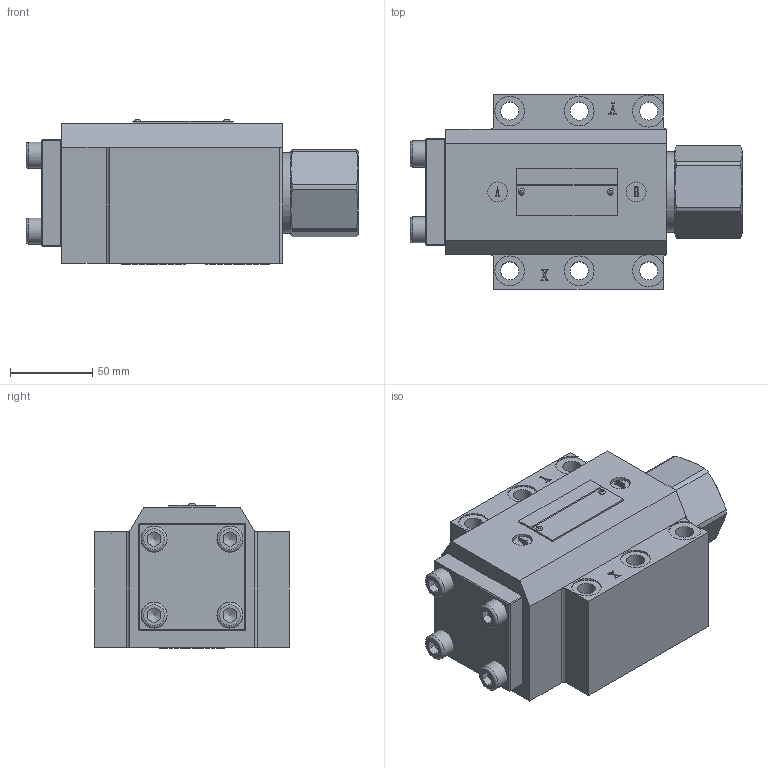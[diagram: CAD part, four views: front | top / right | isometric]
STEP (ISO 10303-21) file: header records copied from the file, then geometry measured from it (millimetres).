
FILE_DESCRIPTION(/* description */ (''),/* implementation_level */ '2;1');
FILE_NAME(/* name */ 'SVSL30P-3(4)-4XJ液控单向阀.prt.stp',/* time_stamp */ '2022-03-30T19:21:12+08:00',/* author */ (''),/* organization */ (''),/* preprocessor_version */ 'ST-DEVELOPER v16.7',/* originating_system */ 'SIEMENS PLM Software NX 12.0',/* authorisation */ '');
FILE_SCHEMA (('AUTOMOTIVE_DESIGN { 1 0 10303 214 3 1 1 1 }'));
Products named in the file (1): SVSL30P-3(4)-4XJ液控单向阀
Bounding box: 201.24 x 118 x 87.63 mm (x, y, z)
Volume: 1325692.5 mm3; surface area: 147417.1 mm2
Topology: 14 solids, 23 shells, 568 faces, 1412 edges, 907 vertices
Faces by surface type: plane 317, cylinder 155, cone 36, bspline 28, extrusion 18, torus 12, sphere 2
Full cylindrical faces by diameter (mm): 1.8 x6, 8.5 x44, 10.8 x4, 11 x6, 12 x2, 12.2 x2, 15.73 x4, 18 x4, 41 x2, 41.8 x1, 46 x2, 49 x2
Entity records: 42618 total; most frequent: CARTESIAN_POINT 29574, ORIENTED_EDGE 2352, DIRECTION 2160, EDGE_CURVE 1176, VERTEX_POINT 806, VECTOR 740, LINE 722, AXIS2_PLACEMENT_3D 710
